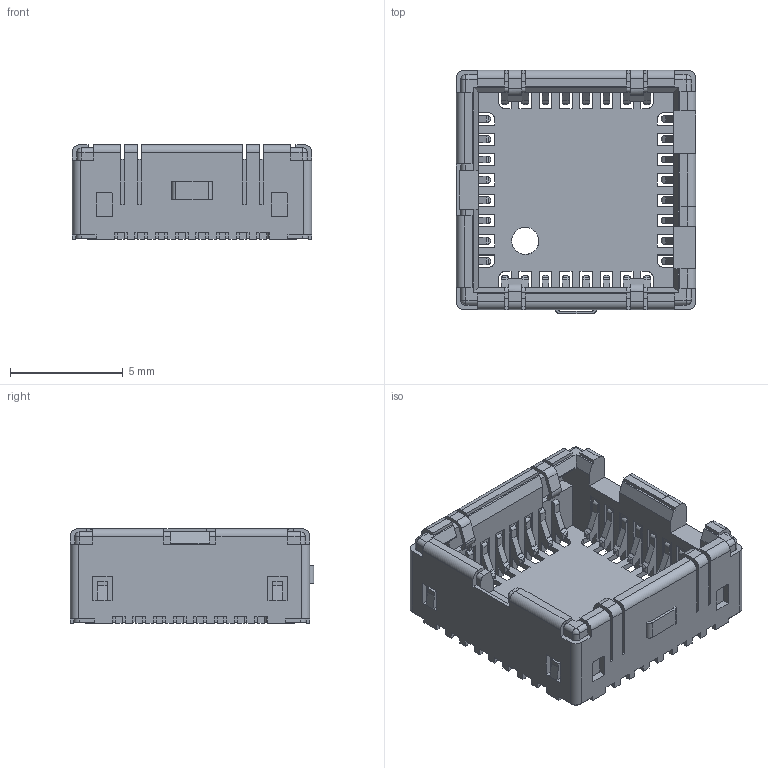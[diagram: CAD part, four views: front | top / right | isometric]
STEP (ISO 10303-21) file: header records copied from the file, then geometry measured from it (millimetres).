
FILE_DESCRIPTION (( 'STEP AP214' ), '1' );
FILE_NAME ('CONN-SMD_1050281001.step', '2022-08-01T03:23:40', ( '' ), ( '' ), 'SwSTEP 2.0', 'SolidWorks 2020', '' );
FILE_SCHEMA (( 'AUTOMOTIVE_DESIGN' ));
Length unit declared in the file: millimetre
Products named in the file (1): CONN-SMD_1050281001
Bounding box: 10.6 x 10.78 x 4.2 mm (x, y, z)
Surface area: 642 mm2 (no closed solid volume)
Topology: 0 solids, 14 shells, 1374 faces, 4172 edges, 2767 vertices
Faces by surface type: plane 991, cylinder 281, bspline 102
Entity records: 66240 total; most frequent: CARTESIAN_POINT 21297, ORIENTED_EDGE 8328, EDGE_CURVE 4172, B_SPLINE_CURVE_WITH_KNOTS 3747, DIRECTION 2967, VERTEX_POINT 2767, EDGE_LOOP 1403, UNCERTAINTY_MEASURE_WITH_UNIT 1389
